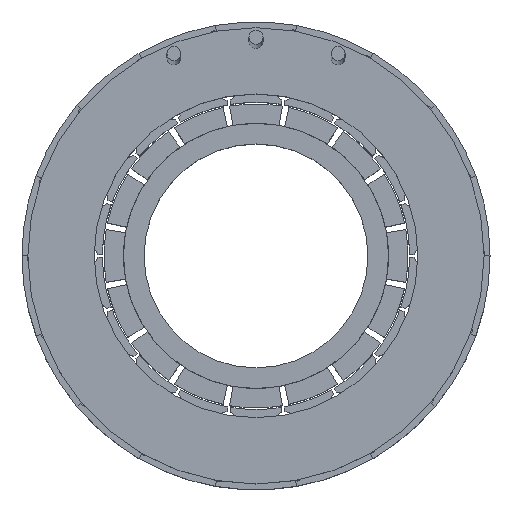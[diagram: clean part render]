
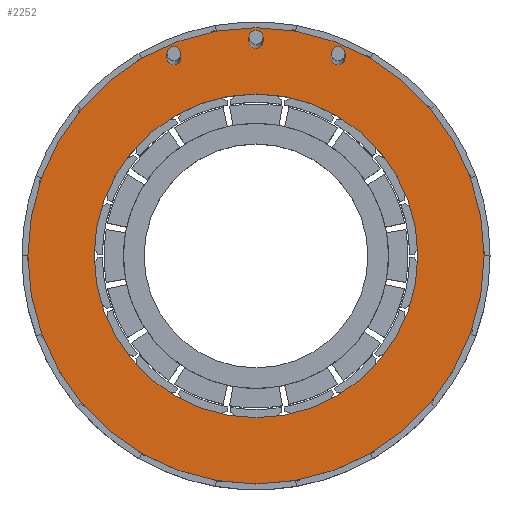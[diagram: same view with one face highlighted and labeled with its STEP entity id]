
A CAD part, top view. The second image highlights one B-rep face of the part: STEP entity #2252.
In plain terms, the highlighted planar face has unit normal (0, 0, 1).
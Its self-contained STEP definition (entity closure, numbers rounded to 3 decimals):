
#18 = DIRECTION ( 'NONE',  ( 0., 0., 1. ) ) ;
#113 = VERTEX_POINT ( 'NONE', #1443 ) ;
#118 = EDGE_CURVE ( 'NONE', #1058, #1348, #2698, .T. ) ;
#175 = EDGE_CURVE ( 'NONE', #690, #2628, #3064, .T. ) ;
#224 = CARTESIAN_POINT ( 'NONE',  ( 10.524, 25.407, 22.7 ) ) ;
#252 = AXIS2_PLACEMENT_3D ( 'NONE', #224, #2290, #2043 ) ;
#326 = CARTESIAN_POINT ( 'NONE',  ( -11.424, 25.407, 22.7 ) ) ;
#337 = AXIS2_PLACEMENT_3D ( 'NONE', #3127, #2724, #2877 ) ;
#364 = DIRECTION ( 'NONE',  ( 1., 0., 0. ) ) ;
#367 = CARTESIAN_POINT ( 'NONE',  ( 0., 0., 22.7 ) ) ;
#405 = FACE_BOUND ( 'NONE', #3169, .T. ) ;
#439 = EDGE_CURVE ( 'NONE', #2280, #969, #962, .T. ) ;
#492 = CIRCLE ( 'NONE', #2192, 29.25 ) ;
#542 = DIRECTION ( 'NONE',  ( 1., 0., 0. ) ) ;
#549 = ORIENTED_EDGE ( 'NONE', *, *, #439, .F. ) ;
#556 = CIRCLE ( 'NONE', #1086, 20.75 ) ;
#562 = AXIS2_PLACEMENT_3D ( 'NONE', #367, #1829, #1371 ) ;
#572 = ORIENTED_EDGE ( 'NONE', *, *, #2309, .F. ) ;
#582 = DIRECTION ( 'NONE',  ( 0., 0., 1. ) ) ;
#637 = ORIENTED_EDGE ( 'NONE', *, *, #175, .F. ) ;
#660 = FACE_BOUND ( 'NONE', #1188, .T. ) ;
#690 = VERTEX_POINT ( 'NONE', #326 ) ;
#807 = AXIS2_PLACEMENT_3D ( 'NONE', #2282, #18, #1069 ) ;
#929 = CARTESIAN_POINT ( 'NONE',  ( 0., 0., 22.7 ) ) ;
#946 = DIRECTION ( 'NONE',  ( 0., 0., 1. ) ) ;
#962 = CIRCLE ( 'NONE', #807, 0.9 ) ;
#964 = AXIS2_PLACEMENT_3D ( 'NONE', #2073, #2024, #1792 ) ;
#969 = VERTEX_POINT ( 'NONE', #2428 ) ;
#990 = VERTEX_POINT ( 'NONE', #2986 ) ;
#1006 = CARTESIAN_POINT ( 'NONE',  ( 29.25, 0., 22.7 ) ) ;
#1052 = EDGE_CURVE ( 'NONE', #2628, #690, #1238, .T. ) ;
#1058 = VERTEX_POINT ( 'NONE', #1006 ) ;
#1069 = DIRECTION ( 'NONE',  ( 1., 0., 0. ) ) ;
#1070 = EDGE_CURVE ( 'NONE', #990, #2033, #2913, .T. ) ;
#1086 = AXIS2_PLACEMENT_3D ( 'NONE', #1301, #2781, #1798 ) ;
#1188 = EDGE_LOOP ( 'NONE', ( #2779, #1786 ) ) ;
#1229 = AXIS2_PLACEMENT_3D ( 'NONE', #2803, #3052, #542 ) ;
#1238 = CIRCLE ( 'NONE', #337, 0.9 ) ;
#1255 = CIRCLE ( 'NONE', #562, 20.75 ) ;
#1301 = CARTESIAN_POINT ( 'NONE',  ( 0., 0., 22.7 ) ) ;
#1329 = CARTESIAN_POINT ( 'NONE',  ( -29.25, 0., 22.7 ) ) ;
#1348 = VERTEX_POINT ( 'NONE', #1329 ) ;
#1359 = EDGE_LOOP ( 'NONE', ( #1482, #2324 ) ) ;
#1371 = DIRECTION ( 'NONE',  ( 1., 0., 0. ) ) ;
#1443 = CARTESIAN_POINT ( 'NONE',  ( 20.75, 0., 22.7 ) ) ;
#1448 = PLANE ( 'NONE',  #3138 ) ;
#1452 = EDGE_CURVE ( 'NONE', #1348, #1058, #492, .T. ) ;
#1460 = DIRECTION ( 'NONE',  ( 0., 0., 1. ) ) ;
#1475 = DIRECTION ( 'NONE',  ( 1., 0., 0. ) ) ;
#1482 = ORIENTED_EDGE ( 'NONE', *, *, #1452, .T. ) ;
#1635 = CARTESIAN_POINT ( 'NONE',  ( -9.624, 25.407, 22.7 ) ) ;
#1673 = CARTESIAN_POINT ( 'NONE',  ( 0., 27.5, 22.7 ) ) ;
#1699 = EDGE_LOOP ( 'NONE', ( #572, #3219 ) ) ;
#1705 = CARTESIAN_POINT ( 'NONE',  ( 0., 0., 22.7 ) ) ;
#1719 = EDGE_CURVE ( 'NONE', #969, #2280, #2815, .T. ) ;
#1786 = ORIENTED_EDGE ( 'NONE', *, *, #3109, .F. ) ;
#1792 = DIRECTION ( 'NONE',  ( 1., 0., 0. ) ) ;
#1797 = ORIENTED_EDGE ( 'NONE', *, *, #1052, .F. ) ;
#1798 = DIRECTION ( 'NONE',  ( 1., 0., 0. ) ) ;
#1829 = DIRECTION ( 'NONE',  ( 0., 0., 1. ) ) ;
#1880 = ORIENTED_EDGE ( 'NONE', *, *, #1719, .F. ) ;
#1912 = CARTESIAN_POINT ( 'NONE',  ( -20.75, 0., 22.7 ) ) ;
#2024 = DIRECTION ( 'NONE',  ( 0., 0., 1. ) ) ;
#2033 = VERTEX_POINT ( 'NONE', #2431 ) ;
#2043 = DIRECTION ( 'NONE',  ( 1., 0., 0. ) ) ;
#2073 = CARTESIAN_POINT ( 'NONE',  ( 10.524, 25.407, 22.7 ) ) ;
#2132 = AXIS2_PLACEMENT_3D ( 'NONE', #1705, #1460, #2468 ) ;
#2192 = AXIS2_PLACEMENT_3D ( 'NONE', #2840, #582, #364 ) ;
#2197 = FACE_OUTER_BOUND ( 'NONE', #1359, .T. ) ;
#2218 = FACE_BOUND ( 'NONE', #3097, .T. ) ;
#2231 = VERTEX_POINT ( 'NONE', #1912 ) ;
#2252 = ADVANCED_FACE ( 'NONE', ( #405, #660, #2218, #2197, #3189 ), #1448, .T. ) ;
#2280 = VERTEX_POINT ( 'NONE', #2973 ) ;
#2282 = CARTESIAN_POINT ( 'NONE',  ( 0., 27.5, 22.7 ) ) ;
#2290 = DIRECTION ( 'NONE',  ( 0., 0., 1. ) ) ;
#2309 = EDGE_CURVE ( 'NONE', #2231, #113, #556, .T. ) ;
#2324 = ORIENTED_EDGE ( 'NONE', *, *, #118, .T. ) ;
#2428 = CARTESIAN_POINT ( 'NONE',  ( 0.9, 27.5, 22.7 ) ) ;
#2431 = CARTESIAN_POINT ( 'NONE',  ( 11.424, 25.407, 22.7 ) ) ;
#2468 = DIRECTION ( 'NONE',  ( 1., 0., 0. ) ) ;
#2628 = VERTEX_POINT ( 'NONE', #1635 ) ;
#2652 = DIRECTION ( 'NONE',  ( 0., 0., 1. ) ) ;
#2660 = AXIS2_PLACEMENT_3D ( 'NONE', #1673, #2652, #1475 ) ;
#2672 = CIRCLE ( 'NONE', #252, 0.9 ) ;
#2698 = CIRCLE ( 'NONE', #2132, 29.25 ) ;
#2724 = DIRECTION ( 'NONE',  ( 0., 0., 1. ) ) ;
#2741 = EDGE_CURVE ( 'NONE', #113, #2231, #1255, .T. ) ;
#2779 = ORIENTED_EDGE ( 'NONE', *, *, #1070, .F. ) ;
#2781 = DIRECTION ( 'NONE',  ( 0., 0., 1. ) ) ;
#2803 = CARTESIAN_POINT ( 'NONE',  ( -10.524, 25.407, 22.7 ) ) ;
#2815 = CIRCLE ( 'NONE', #2660, 0.9 ) ;
#2840 = CARTESIAN_POINT ( 'NONE',  ( 0., 0., 22.7 ) ) ;
#2877 = DIRECTION ( 'NONE',  ( 1., 0., 0. ) ) ;
#2913 = CIRCLE ( 'NONE', #964, 0.9 ) ;
#2943 = DIRECTION ( 'NONE',  ( 1., 0., 0. ) ) ;
#2973 = CARTESIAN_POINT ( 'NONE',  ( -0.9, 27.5, 22.7 ) ) ;
#2986 = CARTESIAN_POINT ( 'NONE',  ( 9.624, 25.407, 22.7 ) ) ;
#3052 = DIRECTION ( 'NONE',  ( 0., 0., 1. ) ) ;
#3064 = CIRCLE ( 'NONE', #1229, 0.9 ) ;
#3097 = EDGE_LOOP ( 'NONE', ( #549, #1880 ) ) ;
#3109 = EDGE_CURVE ( 'NONE', #2033, #990, #2672, .T. ) ;
#3127 = CARTESIAN_POINT ( 'NONE',  ( -10.524, 25.407, 22.7 ) ) ;
#3138 = AXIS2_PLACEMENT_3D ( 'NONE', #929, #946, #2943 ) ;
#3169 = EDGE_LOOP ( 'NONE', ( #637, #1797 ) ) ;
#3189 = FACE_BOUND ( 'NONE', #1699, .T. ) ;
#3219 = ORIENTED_EDGE ( 'NONE', *, *, #2741, .F. ) ;
